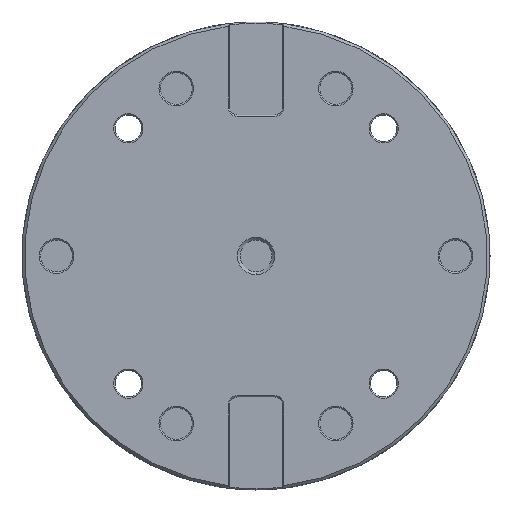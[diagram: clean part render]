
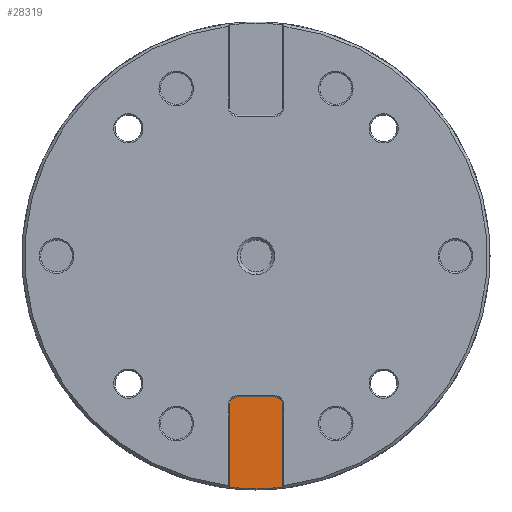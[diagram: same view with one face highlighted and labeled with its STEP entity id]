
A CAD part, front view. The second image highlights one B-rep face of the part: STEP entity #28319.
In plain terms, the highlighted planar face has unit normal (0, -1, 0).
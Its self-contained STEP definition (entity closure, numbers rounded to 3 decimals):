
#16848=CARTESIAN_POINT('',(-9.999,3.001,
-86.928));
#16860=CARTESIAN_POINT('',(9.999,3.001,
-86.928));
#16962=DIRECTION('',(0.,0.,-1.));
#16963=VECTOR('',#16962,30.928);
#16964=CARTESIAN_POINT('',(10.,3.,-56.));
#16965=LINE('',#16964,#16963);
#16970=CARTESIAN_POINT('',(-7.,3.,-56.));
#16971=DIRECTION('',(0.,-1.,0.));
#16972=DIRECTION('',(0.,0.,1.));
#16973=AXIS2_PLACEMENT_3D('',#16970,#16971,#16972);
#16975=CARTESIAN_POINT('',(7.,3.,-56.));
#16976=DIRECTION('',(0.,-1.,0.));
#16977=DIRECTION('',(1.,0.,0.));
#16978=AXIS2_PLACEMENT_3D('',#16975,#16976,#16977);
#16980=CARTESIAN_POINT('',(0.,3.,0.));
#16981=DIRECTION('',(0.,-1.,0.));
#16982=DIRECTION('',(0.,0.,-1.));
#16983=AXIS2_PLACEMENT_3D('',#16980,#16981,#16982);
#16985=CARTESIAN_POINT('',(0.,3.,0.));
#16986=DIRECTION('',(0.,-1.,0.));
#16987=DIRECTION('',(-0.114,0.,-0.993));
#16988=AXIS2_PLACEMENT_3D('',#16985,#16986,#16987);
#16994=DIRECTION('',(0.,0.,1.));
#16995=VECTOR('',#16994,30.928);
#16996=CARTESIAN_POINT('',(-9.999,3.001,
-86.928));
#16997=LINE('',#16996,#16995);
#17006=DIRECTION('',(1.,0.,0.));
#17007=VECTOR('',#17006,14.);
#17008=CARTESIAN_POINT('',(-7.,3.,-53.));
#17009=LINE('',#17008,#17007);
#20174=VERTEX_POINT('',#16848);
#20244=CARTESIAN_POINT('',(10.,3.,-56.));
#20245=CARTESIAN_POINT('',(7.,3.,-53.));
#20246=VERTEX_POINT('',#20244);
#20247=VERTEX_POINT('',#20245);
#20613=CARTESIAN_POINT('',(-7.,3.,-53.));
#20615=VERTEX_POINT('',#20613);
#20720=VERTEX_POINT('',#16860);
#21188=CARTESIAN_POINT('',(-10.,3.,-56.));
#21189=VERTEX_POINT('',#21188);
#21208=CARTESIAN_POINT('',(0.,3.,-87.5));
#21209=VERTEX_POINT('',#21208);
#28301=CARTESIAN_POINT('',(0.,3.,0.));
#28302=DIRECTION('',(0.,1.,0.));
#28303=DIRECTION('',(0.,0.,1.));
#28304=AXIS2_PLACEMENT_3D('',#28301,#28302,#28303);
#28305=PLANE('',#28304);
#28307=ORIENTED_EDGE('',*,*,#28306,.T.);
#28309=ORIENTED_EDGE('',*,*,#28308,.F.);
#28311=ORIENTED_EDGE('',*,*,#28310,.T.);
#28313=ORIENTED_EDGE('',*,*,#28312,.F.);
#28314=ORIENTED_EDGE('',*,*,#28291,.T.);
#28315=ORIENTED_EDGE('',*,*,#28150,.F.);
#28316=ORIENTED_EDGE('',*,*,#28148,.F.);
#28317=EDGE_LOOP('',(#28307,#28309,#28311,#28313,#28314,#28315,#28316));
#28318=FACE_OUTER_BOUND('',#28317,.F.);
#28319=ADVANCED_FACE('',(#28318),#28305,.F.);
#16974=CIRCLE('',#16973,3.);
#16979=CIRCLE('',#16978,3.);
#16984=CIRCLE('',#16983,87.5);
#16989=CIRCLE('',#16988,87.5);
#28148=EDGE_CURVE('',#20174,#21209,#16989,.T.);
#28150=EDGE_CURVE('',#21209,#20720,#16984,.T.);
#28291=EDGE_CURVE('',#20246,#20720,#16965,.T.);
#28306=EDGE_CURVE('',#20174,#21189,#16997,.T.);
#28308=EDGE_CURVE('',#20615,#21189,#16974,.T.);
#28310=EDGE_CURVE('',#20615,#20247,#17009,.T.);
#28312=EDGE_CURVE('',#20246,#20247,#16979,.T.);
